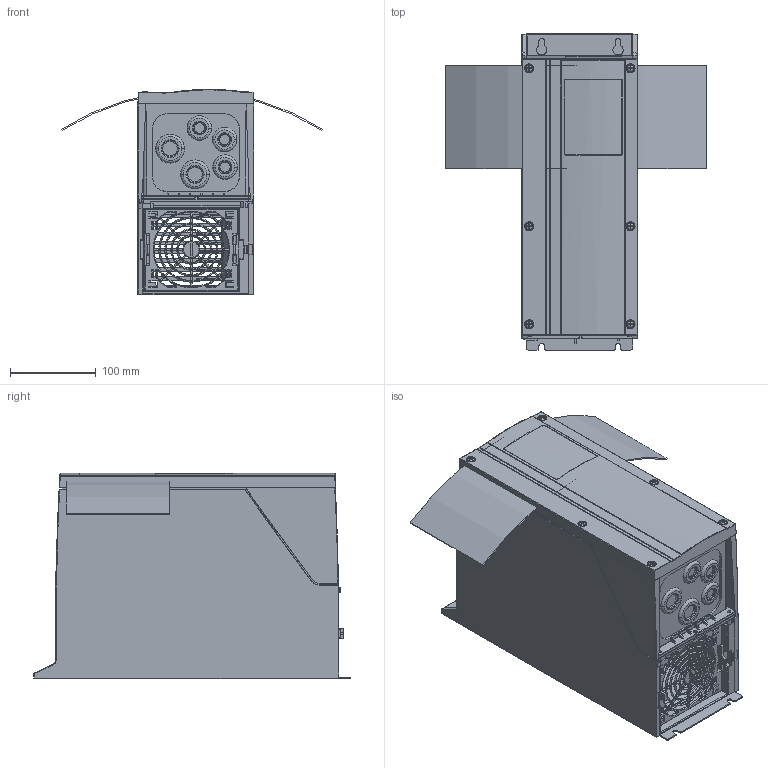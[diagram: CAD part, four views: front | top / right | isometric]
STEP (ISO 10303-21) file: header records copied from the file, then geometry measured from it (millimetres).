
FILE_DESCRIPTION((''),'2;1');
FILE_NAME('PRT0001','2011-11-01T',('U255134'),('Danfoss Power Electronics'),'PRO/ENGINEER BY PARAMETRIC TECHNOLOGY CORPORATION, 2010370','PRO/ENGINEER BY PARAMETRIC TECHNOLOGY CORPORATION, 2010370','');
FILE_SCHEMA(('CONFIG_CONTROL_DESIGN', 'GEOMETRIC_VALIDATION_PROPERTIES_MIM'));
Products named in the file (1): PRT0001
Bounding box: 303.25 x 368 x 238.97 mm (x, y, z)
Volume: 6312772.1 mm3; surface area: 788829.1 mm2
Topology: 2 solids, 16 shells, 3631 faces, 9878 edges, 6095 vertices
Faces by surface type: plane 1523, cylinder 869, bspline 624, sphere 250, torus 207, cone 152, extrusion 6
Entity records: 213413 total; most frequent: CARTESIAN_POINT 83924, ORIENTED_EDGE 19452, DIRECTION 14766, PRESENTATION_STYLE_ASSIGNMENT 12008, STYLED_ITEM 9786, CURVE_STYLE 9771, EDGE_CURVE 9765, VERTEX_POINT 6094
